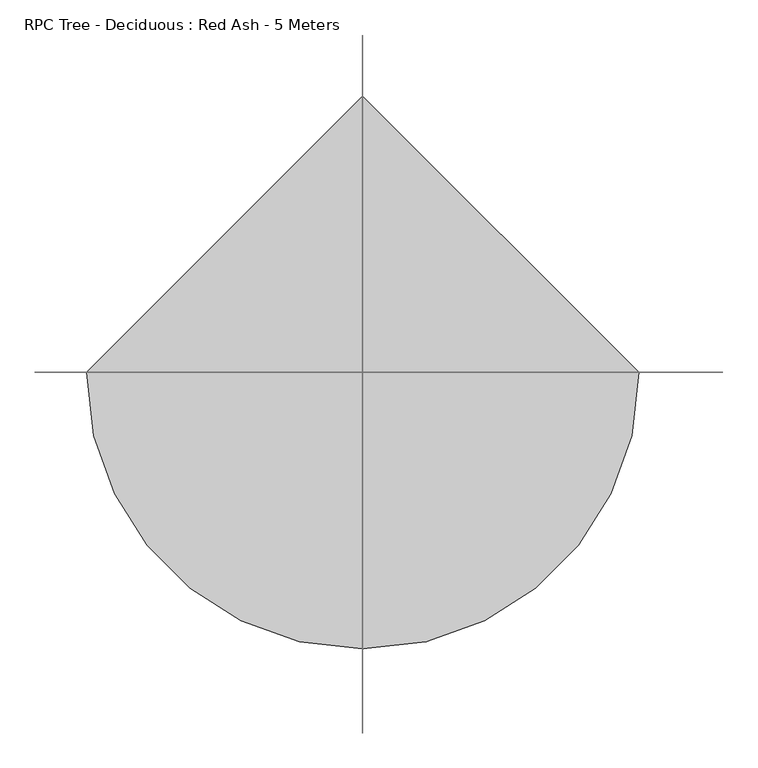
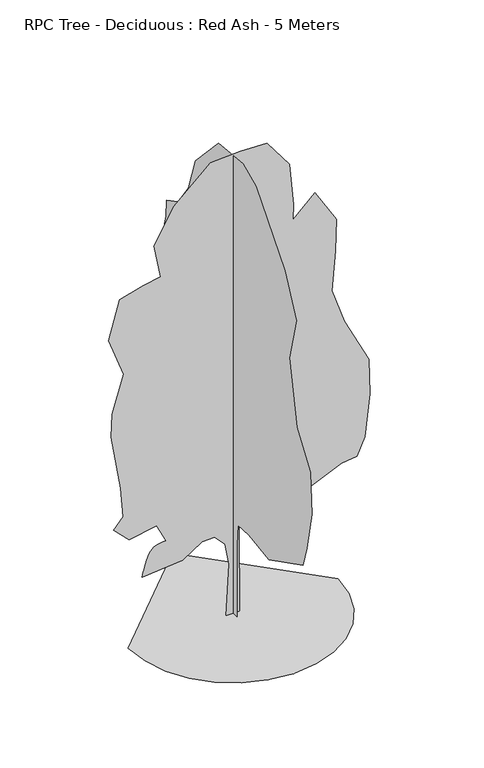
"""IFC4 building model written with IfcOpenShell, lengths in millimetres: geographic element geometry, RPC Tree - Deciduous : Red Ash - 5 Meters."""

from ifc_helpers import new_model, si_unit, origin, place, context, project, spatial, triangles, source, transform, mapped, element, save


def rpc_tree_deciduous_red_ash_5_meters_e4f6fec9(model_context):
    return source(origin(), model_context, "Body", "Tessellation", [
        triangles([(-1079.3652214, 0.0, 4.06e-05), (-1050.8301172, -247.3191336, 4.06e-05), (-969.5632753, -474.4421888, 4.06e-05), (-842.07113, -674.8617868, 4.06e-05), (-674.8618595, -842.0712753, 4.06e-05), (-474.4420435, -969.5630573, 4.06e-05), (-247.3190246, -1050.8301172, 4.06e-05), (4.72e-05, -1079.3652214, 4.06e-05), (247.3191517, -1050.8301899, 4.06e-05), (474.4422252, -969.5632027, 4.06e-05), (674.8618595, -842.07113, 4.06e-05), (842.0714207, -674.8618595, 4.06e-05), (969.56313, -474.4420072, 4.06e-05), (1050.8301172, -247.3189701, 4.06e-05), (1079.3652214, 9.44e-05, 4.06e-05), (-0.0001415, 1079.3652214, 4.06e-05), (-7e-06, -67.484421, 0.0), (1.64e-05, -66.434853, 783.8281008), (2.12e-05, -85.2243856, 1009.0570856), (4e-07, -287.9431801, 1022.418334), (-3.79e-05, -640.6767368, 970.0176807), (-9.22e-05, -1249.1422131, 1278.6595974), (-9.27e-05, -1319.6889244, 1507.9364456), (-8.93e-05, -1407.8723499, 1931.2167137), (-7.34e-05, -1381.4175694, 2372.1339867), (-3.81e-05, -1141.9829836, 2717.2030403), (-3.6e-06, -1002.2301041, 3386.2433075), (-2.3e-06, -1125.6857952, 3862.4337181), (3.15e-05, -922.8641636, 4285.7142769), (0.0001029, -411.4005063, 4894.1797531), (0.0001303, -179.2655477, 4998.8152267), (0.0001747, 258.7937057, 4955.9085434), (0.0002048, 673.2558529, 4514.9912704), (0.0002066, 796.7127794, 4144.6208542), (0.0002181, 981.8971882, 3880.0704323), (0.0002361, 1184.7199099, 3774.2507286), (0.0002317, 1193.5381943, 3597.8835869), (0.0002312, 1246.4483368, 3395.0616646), (0.0002149, 1158.2649113, 3156.9666046), (0.0002163, 1237.6299797, 2927.6899017), (0.0002152, 1316.9950481, 2610.229628), (0.0002107, 1299.3584793, 2522.0457664), (0.0001888, 1149.4466995, 2310.4056324), (0.0001791, 1139.9682083, 2019.4002846), (0.0001727, 1131.8099127, 1834.2150764), (0.0001668, 1140.6282698, 1604.9383736), (0.0001583, 1149.4467722, 1287.4782452), (0.0001425, 1025.9898457, 1190.4762445), (0.0001186, 796.7130701, 1190.4762445), (0.0001199, 902.5331371, 864.1976137), (0.0001125, 884.8393044, 679.058115), (9.95e-05, 723.7736996, 805.6669567), (6.47e-05, 413.0332555, 726.186125), (6.43e-05, 362.015621, 890.4599642), (4.13e-05, 141.675046, 888.4531826), (3.3e-05, 85.8275828, 805.9938263), (2.14e-05, 52.1977269, 536.9312161), (7.7e-06, 73.5997454, 8.4e-06), (-72.7499153, 3.2e-06, 2.93e-05), (-43.7739315, -6.33e-05, 546.9171255), (-84.8473101, -8.92e-05, 779.4905022), (-190.8056863, -9.85e-05, 895.8777294), (-317.3467632, -9.24e-05, 891.5330818), (-522.4854409, -6.76e-05, 758.3775467), (-936.9475336, -4.52e-05, 723.1042637), (-931.2143806, -4.82e-05, 745.908613), (-925.0954954, -5.13e-05, 769.4841362), (-918.2053637, -5.46e-05, 794.6021524), (-910.1583258, -5.82e-05, 822.0343443), (-900.5687948, -6.23e-05, 852.5510136), (-889.0509659, -6.69e-05, 886.9247875), (-875.219252, -7.21e-05, 925.925968), (-857.7883392, -7.72e-05, 962.0992687), (-836.1923464, -8.13e-05, 988.5542673), (-811.1256351, -8.46e-05, 1006.9105597), (-783.2822039, -8.72e-05, 1018.7886137), (-753.3564869, -8.94e-05, 1025.8070807), (-722.0421919, -9.12e-05, 1029.5863558), (-690.0338985, -9.28e-05, 1031.746035), (-787.0355358, -0.0001117, 1225.7496002), (-1069.2226719, -9.31e-05, 1172.8395304), (-1227.9525181, -0.0001051, 1331.5698853), (-1130.9508081, -0.000123, 1446.208382), (-1157.4058067, -0.0001597, 1763.6686558), (-1254.4075893, -0.0002258, 2354.4972725), (-1245.7223637, -0.0002554, 2599.1898949), (-1128.5548061, -0.0003076, 2994.3082191), (-1280.8626606, -0.0003508, 3412.6983788), (-1166.2240185, -0.0004042, 3818.3422234), (-928.1291039, -0.000423, 3888.8887894), (-746.9903057, -0.0004347, 3920.8414902), (-813.4907524, -0.0004743, 4276.8959198), (-610.6686848, -0.0005263, 4638.4482697), (-231.4798569, -0.0005838, 4982.363324), (77.161869, -0.0005994, 5000.0000381), (350.5306752, -0.0006103, 4991.1813904), (579.8075598, -0.0005835, 4682.5397644), (621.9632715, -0.0005315, 4230.654847), (615.91008, -0.0005115, 4064.940834), (844.357691, -0.0005468, 4276.8959198), (1064.8163275, -0.0005133, 3915.3438606), (1055.9980431, -0.0004722, 3573.8251717), (1016.7043659, -0.00042, 3150.0341789), (1144.1813959, -0.0003812, 2777.7778313), (1398.7952877, -0.0003325, 2276.3766048), (1406.9129608, -0.0002878, 1898.1690216), (1355.8214573, -0.0002317, 1446.2082367), (1276.4563889, -0.0002061, 1261.0228832), (1117.726252, -0.0001971, 1243.3863144), (809.084408, -0.0001668, 1102.2927464), (535.7155563, -0.0001317, 908.2892538), (168.9478635, -0.0001345, 1065.9900204), (61.0570017, -0.0001159, 949.8915836), (68.3433348, -3e-06, 2.31e-05)], [[15, 16, 1], [14, 15, 1], [14, 1, 2], [13, 14, 2], [13, 2, 3], [13, 3, 4], [12, 13, 4], [11, 12, 4], [11, 4, 5], [11, 5, 6], [11, 6, 7], [11, 7, 8], [11, 8, 9], [11, 9, 10], [50, 51, 52], [57, 58, 17], [57, 17, 18], [56, 57, 18], [56, 18, 19], [55, 56, 19], [49, 50, 52], [52, 53, 54], [49, 52, 54], [35, 36, 37], [46, 47, 48], [46, 48, 49], [21, 22, 23], [20, 21, 23], [20, 23, 24], [20, 24, 25], [20, 25, 26], [19, 20, 26], [19, 26, 27], [45, 46, 49], [31, 32, 33], [30, 31, 33], [29, 30, 33], [29, 33, 34], [28, 29, 34], [27, 28, 34], [19, 27, 34], [19, 34, 35], [19, 35, 37], [19, 37, 38], [19, 38, 39], [19, 39, 40], [19, 40, 41], [19, 41, 42], [19, 42, 43], [19, 43, 44], [19, 44, 45], [19, 45, 49], [19, 49, 54], [55, 19, 54], [64, 65, 66], [64, 66, 67], [64, 67, 68], [99, 100, 101], [64, 68, 69], [64, 69, 70], [64, 70, 71], [114, 59, 60], [113, 114, 60], [113, 60, 61], [113, 61, 62], [64, 71, 72], [64, 72, 73], [64, 73, 74], [64, 74, 75], [64, 75, 76], [64, 76, 77], [64, 77, 78], [64, 78, 79], [63, 64, 79], [81, 82, 83], [80, 81, 83], [99, 101, 102], [107, 108, 109], [110, 111, 112], [88, 89, 90], [87, 88, 90], [87, 90, 91], [80, 83, 84], [95, 96, 97], [95, 97, 98], [94, 95, 98], [93, 94, 98], [92, 93, 98], [91, 92, 98], [91, 98, 99], [87, 91, 99], [87, 99, 102], [87, 102, 103], [87, 103, 104], [86, 87, 104], [85, 86, 104], [84, 85, 104], [80, 84, 104], [80, 104, 105], [80, 105, 106], [80, 106, 107], [80, 107, 109], [80, 109, 110], [80, 110, 112], [79, 80, 112], [63, 79, 112], [62, 63, 112], [113, 62, 112]], closed=False),
    ])


if __name__ == "__main__":
    model = new_model("IFC4")
    model_context = context("Model", 3, world=origin())
    ifc_project = project(units=[si_unit("LENGTHUNIT", "METRE", prefix="MILLI")], contexts=[model_context])
    site = spatial("IfcSite", under=ifc_project)
    building = spatial("IfcBuilding", under=site)
    placement = place(None, origin())
    rpc_tree_deciduous_red_ash_5_meters_shape = rpc_tree_deciduous_red_ash_5_meters_e4f6fec9(model_context)
    element("IfcGeographicElement", 1, ObjectType="RPC Tree - Deciduous : Red Ash - 5 Meters", at=placement, inside=building, context=model_context, shape_type="MappedRepresentation", body=[
        mapped(rpc_tree_deciduous_red_ash_5_meters_shape, transform((0.0, 0.0, 0.0), x_axis=(1.0, 0.0, 0.0), y_axis=(0.0, 1.0, 0.0), z_axis=(0.0, 0.0, 1.0))),
    ])
    save(model, "model.ifc")
